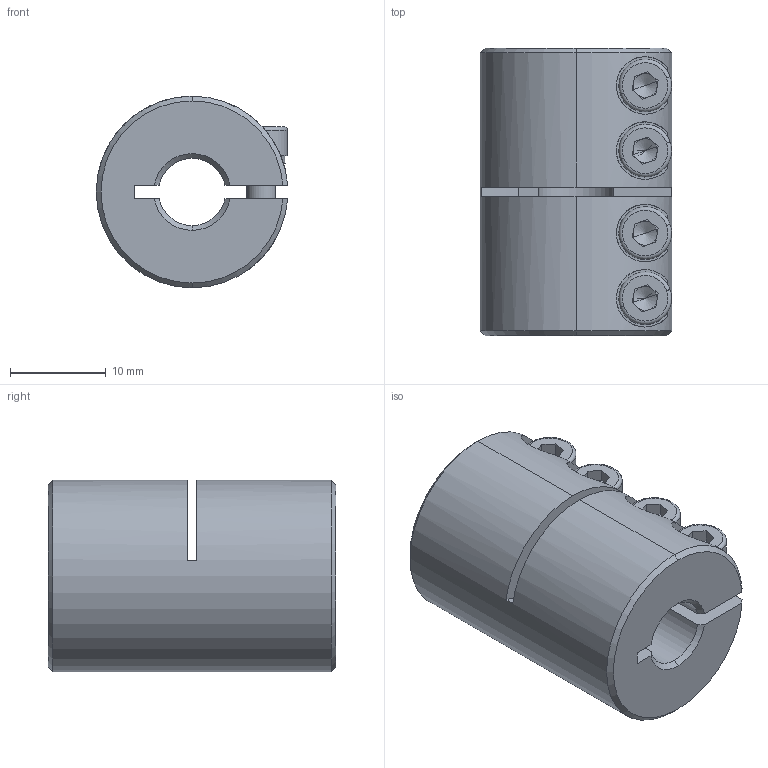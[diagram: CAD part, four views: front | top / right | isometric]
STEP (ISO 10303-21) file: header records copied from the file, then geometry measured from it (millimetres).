
FILE_DESCRIPTION (( 'STEP AP203' ), '1' );
FILE_NAME ('LL-B-D20L30-7-8.STEP', '2021-11-05T03:16:44', ( '' ), ( '' ), 'SwSTEP 2.0', 'SolidWorks 2018', '' );
FILE_SCHEMA (( 'CONFIG_CONTROL_DESIGN' ));
Length unit declared in the file: millimetre
Products named in the file (1): LL-B-D20L30-7-8
Bounding box: 19.98 x 30 x 20 mm (x, y, z)
Volume: 7451.7 mm3; surface area: 4544.5 mm2
Topology: 1 solids, 1 shells, 178 faces, 459 edges, 287 vertices
Faces by surface type: plane 89, cylinder 61, cone 20, torus 8
Entity records: 5821 total; most frequent: CARTESIAN_POINT 1349, DIRECTION 958, ORIENTED_EDGE 902, EDGE_CURVE 451, AXIS2_PLACEMENT_3D 368, VERTEX_POINT 287, VECTOR 222, LINE 222
